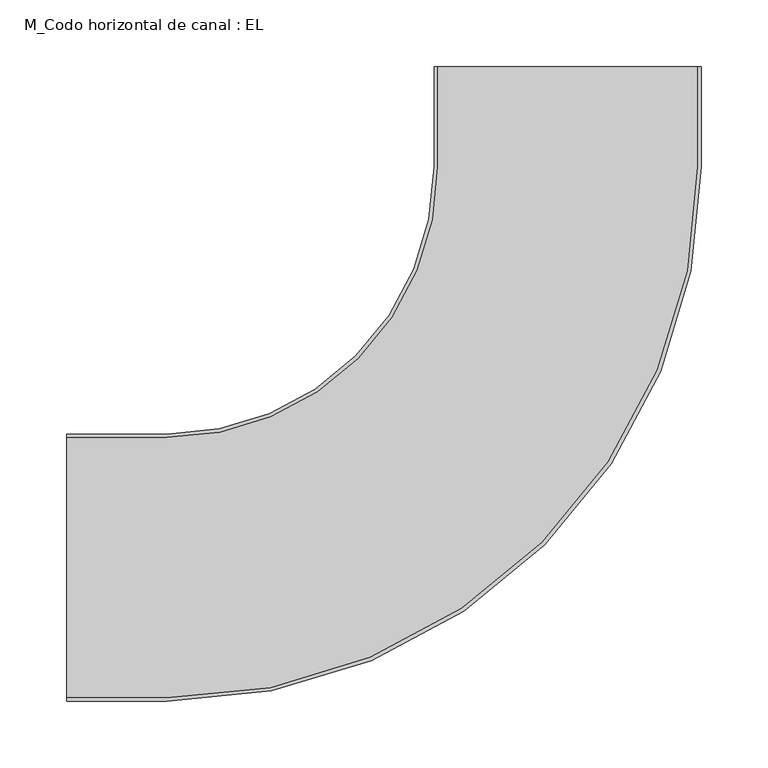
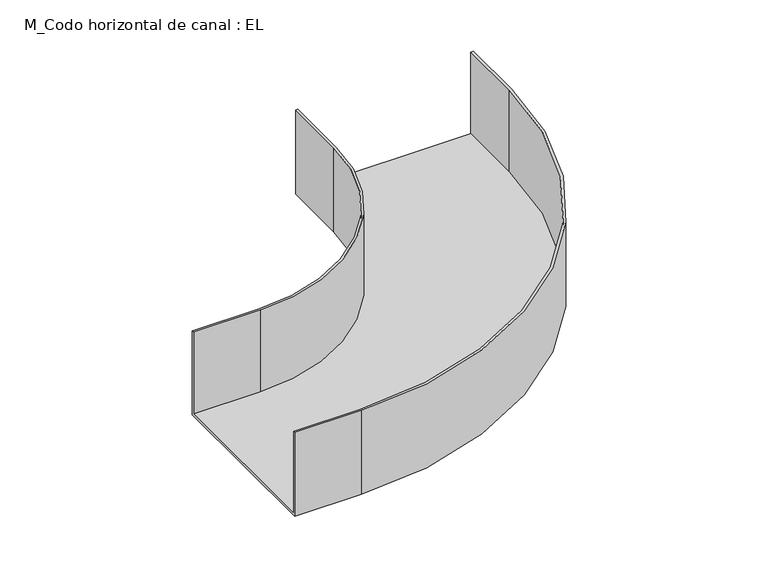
"""IFC4 building model written with IfcOpenShell, lengths in millimetres: cable carrier fitting geometry, M_Codo horizontal de canal : EL."""

from ifc_helpers import new_model, si_unit, frame, origin, place, context, project, spatial, polyline, circle_curve, source, transform, mapped, element, save
from ifc_brep_helpers import plane_surface, cylinder_surface, revolved_surface, advanced_brep


def m_codo_horizontal_de_canal_el_01cafb92(model_context):
    return source(origin(), model_context, "Body", "AdvancedBrep", [
        advanced_brep(
        [(-375.0, -100.0, -50.0), (-375.0, -100.0, 50.0), (-375.0, -97.46, 50.0), (-375.0, -97.46, -47.46), (-375.0, 97.46, -47.46), (-375.0, 97.46, 50.0), (-375.0, 100.0, 50.0), (-375.0, 100.0, -50.0), (100.0, 375.0, -50.0), (-100.0, 375.0, -50.0), (-100.0, 375.0, 50.0), (-97.46, 375.0, 50.0), (-97.46, 375.0, -47.46), (97.46, 375.0, -47.46), (97.46, 375.0, 50.0), (100.0, 375.0, 50.0), (-300.0, -100.0, -50.0), (-300.0, -100.0, 50.0), (100.0, 300.0, 50.0), (97.46, 300.0, 50.0), (-300.0, -97.46, 50.0), (-300.0, -97.46, -47.46), (97.46, 300.0, -47.46), (-97.46, 300.0, -47.46), (-300.0, 97.46, -47.46), (-300.0, 97.46, 50.0), (-97.46, 300.0, 50.0), (-100.0, 300.0, 50.0), (-300.0, 100.0, 50.0), (-300.0, 100.0, -50.0), (-100.0, 300.0, -50.0), (100.0, 300.0, -50.0)],
        [
            (0, 1),
            (1, 2),
            (2, 3),
            (3, 4),
            (4, 5),
            (5, 6),
            (6, 7),
            (7, 0),
            (8, 9),
            (9, 10),
            (10, 11),
            (11, 12),
            (12, 13),
            (13, 14),
            (14, 15),
            (15, 8),
            (0, 16),
            (16, 17),
            (17, 1),
            (17, 18, circle_curve(frame((-300.0, 300.0, 50.0), z_axis=(0.0, 0.0, 1.0), x_axis=(0.0, -1.0, 0.0)), 400.0)),
            (18, 15),
            (14, 19),
            (19, 20, circle_curve(frame((-300.0, 300.0, 50.0), z_axis=(0.0, 0.0, -1.0), x_axis=(0.0, -1.0, 0.0)), 397.46)),
            (20, 2),
            (20, 21),
            (21, 3),
            (21, 22, circle_curve(frame((-300.0, 300.0, -47.46), z_axis=(0.0, 0.0, 1.0), x_axis=(0.0, -1.0, 0.0)), 397.46)),
            (22, 13),
            (12, 23),
            (23, 24, circle_curve(frame((-300.0, 300.0, -47.46), z_axis=(0.0, 0.0, -1.0), x_axis=(0.0, -1.0, 0.0)), 202.54)),
            (24, 4),
            (24, 25),
            (25, 5),
            (25, 26, circle_curve(frame((-300.0, 300.0, 50.0), z_axis=(0.0, 0.0, 1.0), x_axis=(0.0, -1.0, 0.0)), 202.54)),
            (26, 11),
            (10, 27),
            (27, 28, circle_curve(frame((-300.0, 300.0, 50.0), z_axis=(0.0, 0.0, -1.0), x_axis=(0.0, -1.0, 0.0)), 200.0)),
            (28, 6),
            (28, 29),
            (29, 7),
            (29, 30, circle_curve(frame((-300.0, 300.0, -50.0), z_axis=(0.0, 0.0, 1.0), x_axis=(0.0, -1.0, 0.0)), 200.0)),
            (30, 9),
            (8, 31),
            (31, 16, circle_curve(frame((-300.0, 300.0, -50.0), z_axis=(0.0, 0.0, -1.0), x_axis=(0.0, -1.0, 0.0)), 400.0)),
            (31, 18),
            (19, 22),
            (23, 26),
            (27, 30),
        ],
        [
            plane_surface(frame((-375.0, 0.0, 0.0), z_axis=(-1.0, 0.0, 0.0), x_axis=(0.0, 0.0, 1.0))),
            plane_surface(frame((0.0, 375.0, 0.0), z_axis=(0.0, 1.0, 0.0), x_axis=(0.0, 0.0, 1.0))),
            plane_surface(frame((-375.0, -100.0, -50.0), z_axis=(0.0, -1.0, 0.0), x_axis=(1.0, 0.0, 0.0))),
            plane_surface(frame((-375.0, -100.0, 50.0), z_axis=(0.0, 0.0, 1.0), x_axis=(1.0, 0.0, 0.0))),
            plane_surface(frame((-375.0, -97.46, 50.0), z_axis=(0.0, 1.0, 0.0), x_axis=(1.0, 0.0, 0.0))),
            plane_surface(frame((-375.0, -97.46, -47.46), z_axis=(0.0, 0.0, 1.0), x_axis=(1.0, 0.0, 0.0))),
            plane_surface(frame((-375.0, 97.46, -47.46), z_axis=(0.0, -1.0, 0.0), x_axis=(1.0, 0.0, 0.0))),
            plane_surface(frame((-375.0, 97.46, 50.0), z_axis=(0.0, 0.0, 1.0), x_axis=(1.0, 0.0, 0.0))),
            plane_surface(frame((-375.0, 100.0, 50.0), z_axis=(0.0, 1.0, 0.0), x_axis=(1.0, 0.0, 0.0))),
            plane_surface(frame((-375.0, 100.0, -50.0), z_axis=(0.0, 0.0, -1.0), x_axis=(1.0, 0.0, 0.0))),
            cylinder_surface(frame((-300.0, 300.0, 0.0), z_axis=(0.0, 0.0, 1.0), x_axis=(0.0, -1.0, 0.0)), 400.0),
            revolved_surface(polyline([(-300.0, -97.45999999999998, 50.0), (-300.0, -97.45999999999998, -47.46)]), (-300.0, 300.0, 0.0), (0.0, 0.0, 1.0)),
            cylinder_surface(frame((-300.0, 300.0, 0.0), z_axis=(0.0, 0.0, 1.0), x_axis=(0.0, -1.0, 0.0)), 202.54),
            revolved_surface(polyline([(-300.0, 100.0, 50.0), (-300.0, 100.0, -50.0)]), (-300.0, 300.0, 0.0), (0.0, 0.0, 1.0)),
            plane_surface(frame((100.0, 300.0, -50.0), z_axis=(1.0, 0.0, 0.0), x_axis=(0.0, 1.0, 0.0))),
            plane_surface(frame((97.46, 300.0, 50.0), z_axis=(-1.0, 0.0, 0.0), x_axis=(0.0, 1.0, 0.0))),
            plane_surface(frame((-97.46, 300.0, -47.46), z_axis=(1.0, 0.0, 0.0), x_axis=(0.0, 1.0, 0.0))),
            plane_surface(frame((-100.0, 300.0, 50.0), z_axis=(-1.0, 0.0, 0.0), x_axis=(0.0, 1.0, 0.0))),
        ],
        [
            (0, [[1, 2, 3, 4, 5, 6, 7, 8]]),
            (1, [[9, 10, 11, 12, 13, 14, 15, 16]]),
            (2, [[-1, 17, 18, 19]]),
            (3, [[-2, -19, 20, 21, -15, 22, 23, 24]]),
            (4, [[-3, -24, 25, 26]]),
            (5, [[-4, -26, 27, 28, -13, 29, 30, 31]]),
            (6, [[-5, -31, 32, 33]]),
            (7, [[-6, -33, 34, 35, -11, 36, 37, 38]]),
            (8, [[-7, -38, 39, 40]]),
            (9, [[-8, -40, 41, 42, -9, 43, 44, -17]]),
            (10, [[-20, -18, -44, 45]]),
            (11, [[-27, -25, -23, 46]]),
            (12, [[-34, -32, -30, 47]]),
            (13, [[-41, -39, -37, 48]]),
            (14, [[-45, -43, -16, -21]]),
            (15, [[-46, -22, -14, -28]]),
            (16, [[-47, -29, -12, -35]]),
            (17, [[-48, -36, -10, -42]]),
        ],
    ),
    ])


if __name__ == "__main__":
    model = new_model("IFC4")
    model_context = context("Model", 3, world=origin())
    ifc_project = project(units=[si_unit("LENGTHUNIT", "METRE", prefix="MILLI")], contexts=[model_context])
    site = spatial("IfcSite", under=ifc_project)
    building = spatial("IfcBuilding", under=site)
    placement = place(None, origin())
    m_codo_horizontal_de_canal_el_shape = m_codo_horizontal_de_canal_el_01cafb92(model_context)
    element("IfcCableCarrierFitting", 1, ObjectType="M_Codo horizontal de canal : EL", at=placement, inside=building, context=model_context, shape_type="MappedRepresentation", body=[
        mapped(m_codo_horizontal_de_canal_el_shape, transform((0.0, 0.0, 0.0), x_axis=(1.0, 0.0, 0.0), y_axis=(0.0, 1.0, 0.0), z_axis=(0.0, 0.0, 1.0))),
    ])
    save(model, "model.ifc")
